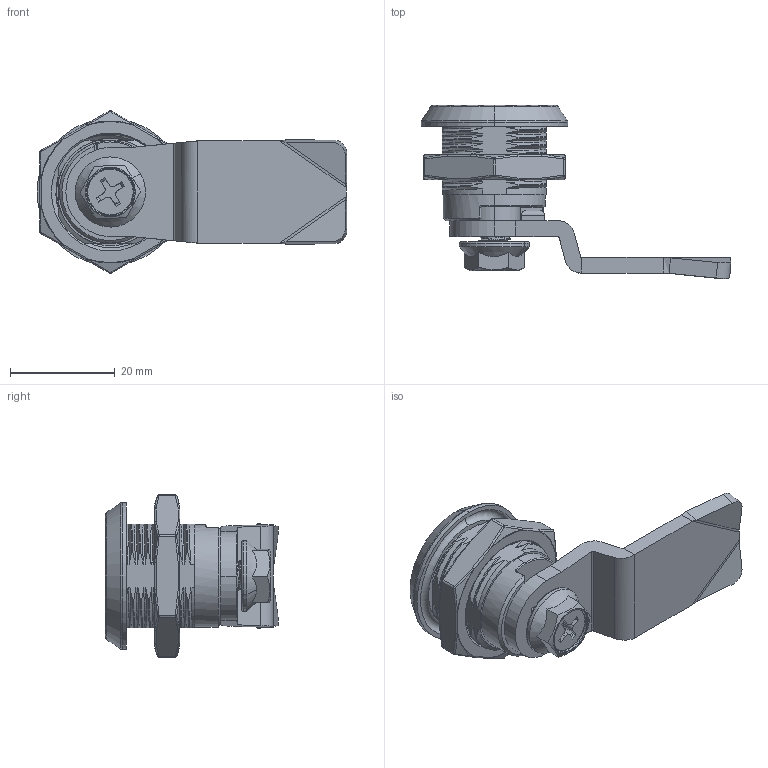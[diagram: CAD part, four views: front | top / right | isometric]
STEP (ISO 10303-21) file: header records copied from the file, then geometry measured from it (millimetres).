
FILE_DESCRIPTION (( 'STEP AP214' ), '1' );
FILE_NAME ('D1-1401-S蚾饜芞_sldasm.STEP', '2026-06-16T07:46:40', ( '' ), ( '' ), 'SwSTEP 2.0', 'SolidWorks 2020', '' );
FILE_SCHEMA (( 'AUTOMOTIVE_DESIGN' ));
Length unit declared in the file: millimetre
Products named in the file (6): D1-1401-S蚾饜芞_sldasm.sldasm-Part-3; D1-1401-S蚾饜芞_sldasm.sldasm-Part-2; D1-1401-S蚾饜芞_sldasm; D1-1401-S蚾饜芞_sldasm.sldasm-Part-1; D1-1401-S蚾饜芞_sldasm.sldasm-Part-5; D1-1401-S蚾饜芞_sldasm.sldasm-Part-4
Assembly tree (5 placements, depth 2):
  D1-1401-S蚾饜芞_sldasm
    D1-1401-S蚾饜芞_sldasm.sldasm-Part-1
    D1-1401-S蚾饜芞_sldasm.sldasm-Part-2
    D1-1401-S蚾饜芞_sldasm.sldasm-Part-3
    D1-1401-S蚾饜芞_sldasm.sldasm-Part-4
    D1-1401-S蚾饜芞_sldasm.sldasm-Part-5
Bounding box: 59.15 x 33.01 x 31.02 mm (x, y, z)
Volume: 11099.7 mm3; surface area: 10514.3 mm2
Topology: 5 solids, 5 shells, 530 faces, 1352 edges, 843 vertices
Faces by surface type: bspline 189, cylinder 155, plane 117, cone 48, torus 21
Entity records: 52700 total; most frequent: CARTESIAN_POINT 41699, ORIENTED_EDGE 2700, DIRECTION 1713, EDGE_CURVE 1350, VERTEX_POINT 843, AXIS2_PLACEMENT_3D 648, EDGE_LOOP 549, ADVANCED_FACE 530
